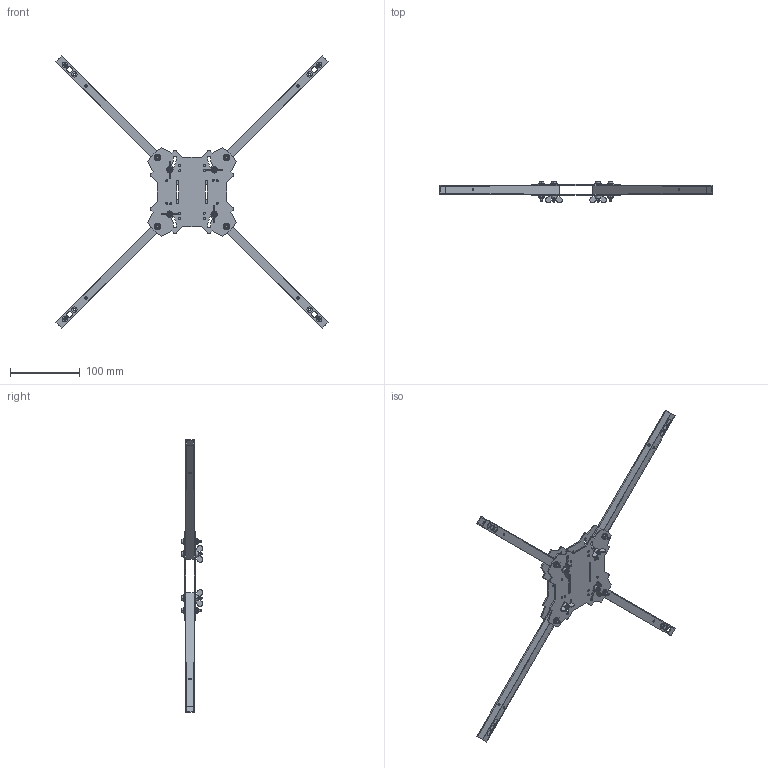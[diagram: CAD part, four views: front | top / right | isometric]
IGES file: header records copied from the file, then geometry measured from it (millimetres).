
Start section: IGES file generated from an Kompas a.0 for Windows drawing by the IGES translator from Ascon Ltd., translator version IGESOUT-5.1.
Bounding box: 390.11 x 31 x 390.11 mm (x, y, z)
Surface area: 136689.6 mm2 (no closed solid volume)
Topology: 0 solids, 0 shells, 832 faces, 4136 edges, 4120 vertices
Faces by surface type: revolution 480, bspline 352
